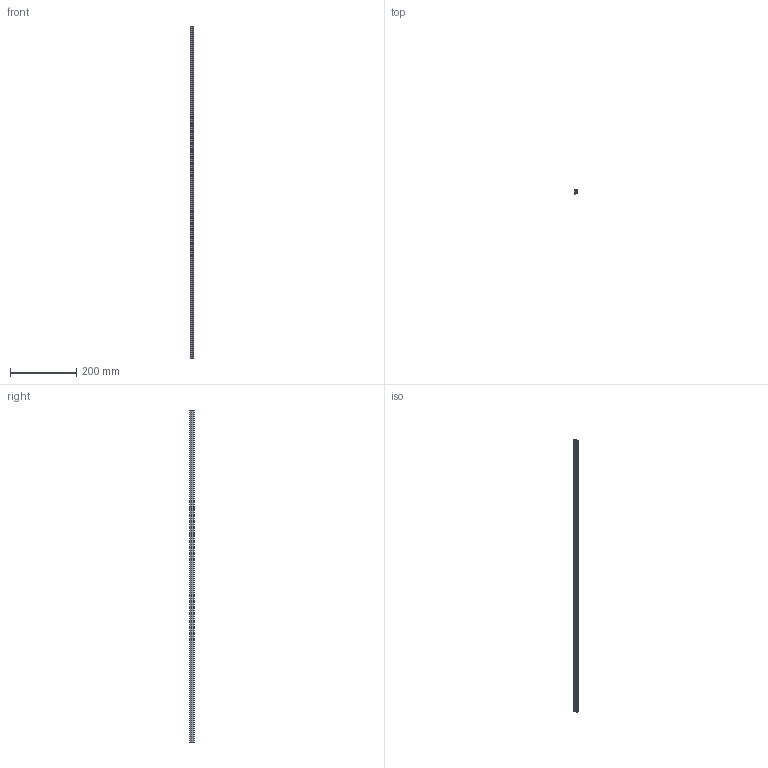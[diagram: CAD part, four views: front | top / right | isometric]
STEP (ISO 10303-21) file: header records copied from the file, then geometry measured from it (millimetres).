
FILE_DESCRIPTION (( 'STEP AP214' ), '1' );
FILE_NAME ('EBET-05.STEP', '2016-02-03T11:40:55', ( '' ), ( '' ), 'SwSTEP 2.0', 'SolidWorks 2012', '' );
FILE_SCHEMA (( 'AUTOMOTIVE_DESIGN' ));
Length unit declared in the file: millimetre
Products named in the file (1): EBET-05
Bounding box: 9.38 x 13.4 x 1000 mm (x, y, z)
Volume: 69388.9 mm3; surface area: 64215.8 mm2
Topology: 1 solids, 1 shells, 25 faces, 69 edges, 46 vertices
Faces by surface type: plane 13, cylinder 12
Entity records: 841 total; most frequent: DIRECTION 145, CARTESIAN_POINT 141, ORIENTED_EDGE 138, EDGE_CURVE 69, AXIS2_PLACEMENT_3D 50, VERTEX_POINT 46, VECTOR 45, LINE 45
